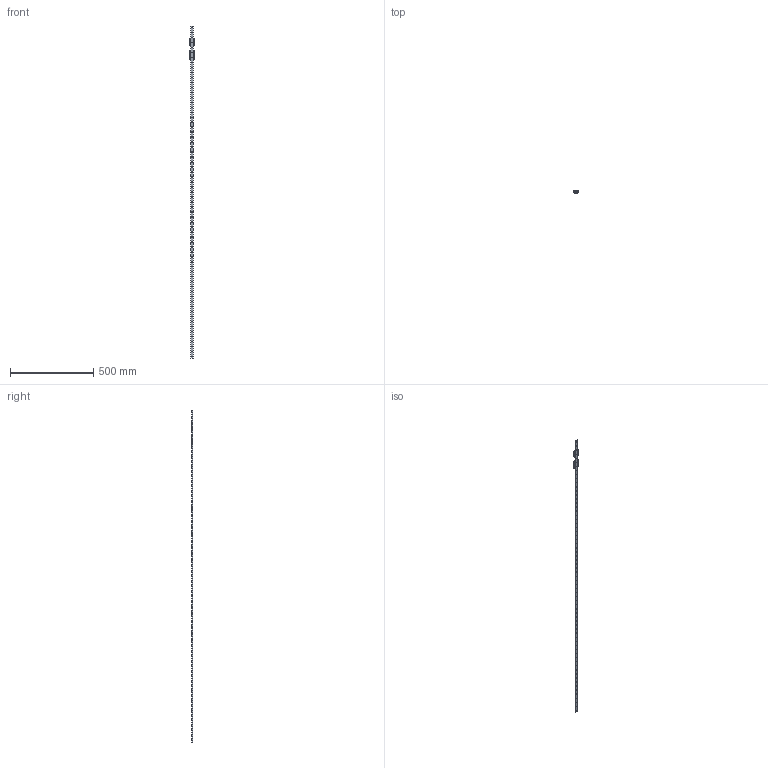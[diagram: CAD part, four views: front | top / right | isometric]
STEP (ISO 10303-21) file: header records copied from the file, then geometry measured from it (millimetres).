
FILE_DESCRIPTION((''),'2;1');
FILE_NAME('BMWS9-XX2-2000-CAT_ASM','2022-09-29T12:10:19',('SEDY4338'),('Ewellix'),'CREO PARAMETRIC BY PTC INC, 2020281','CREO PARAMETRIC BY PTC INC, 2020281','');
FILE_SCHEMA(('CONFIG_CONTROL_DESIGN'));
Length unit declared in the file: millimetre
Products named in the file (11): LLSW9-2000-CAT_AF0; LLSWC09_TA_PROCESS_DRAWING_AF0; LLSWC09_LA_PROCESS_DRAWING_AF0; KH-LLSW9-M-00; KH-LLSW9-L-00; CJ-LLSW9-AN-00; SV-LLSW9-AN-00-1ST; SV-LLSW9-AN-00-2ND; SV-LLSW9-AN-00_ASM; VS-CP-M1_6-04-H0-01; BMWS9-XX2-2000-CAT_ASM
Assembly tree (25 placements, depth 3):
  BMWS9-XX2-2000-CAT_ASM
    LLSW9-2000-CAT_AF0
    LLSWC09_TA_PROCESS_DRAWING_AF0
    LLSWC09_LA_PROCESS_DRAWING_AF0
    KH-LLSW9-M-00  x2
    KH-LLSW9-L-00  x2
    CJ-LLSW9-AN-00  x4
    SV-LLSW9-AN-00_ASM  x4
      SV-LLSW9-AN-00-1ST
      SV-LLSW9-AN-00-2ND
    VS-CP-M1_6-04-H0-01  x8
Bounding box: 30 x 12 x 2000 mm (x, y, z)
Volume: 252635.4 mm3; surface area: 123312.8 mm2
Topology: 27 solids, 27 shells, 3189 faces, 8256 edges, 5270 vertices
Faces by surface type: cylinder 1254, plane 1121, bspline 364, cone 358, torus 68, sphere 24
Entity records: 43968 total; most frequent: CARTESIAN_POINT 10282, DIRECTION 7241, ORIENTED_EDGE 6738, EDGE_CURVE 3369, AXIS2_PLACEMENT_3D 2707, VERTEX_POINT 2134, VECTOR 1827, LINE 1827
